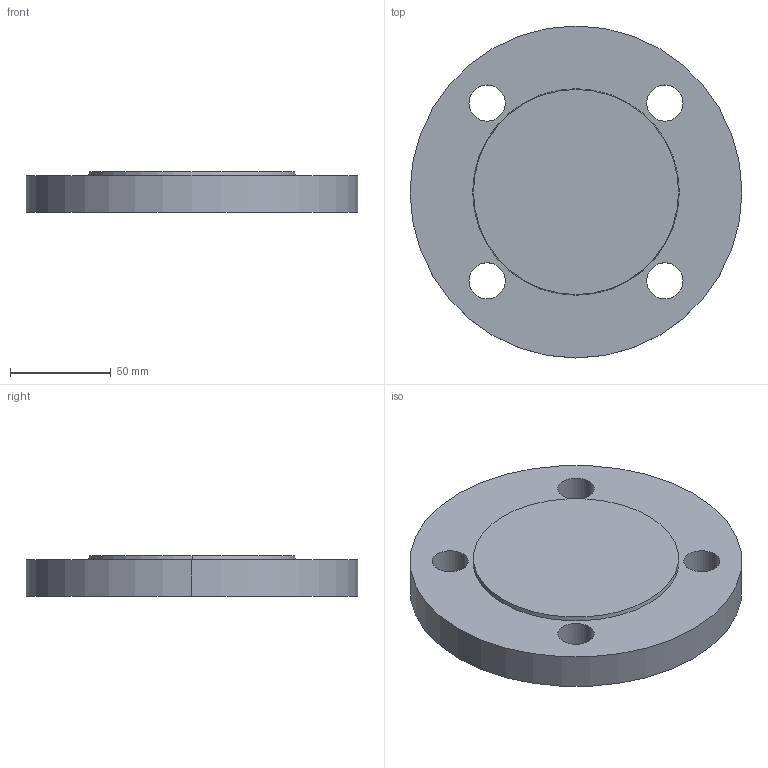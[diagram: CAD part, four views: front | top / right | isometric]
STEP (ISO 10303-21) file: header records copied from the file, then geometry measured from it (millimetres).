
FILE_DESCRIPTION (( 'STEP AP214' ), '1' );
FILE_NAME ('PN40 DN50 Type 05 - Type B Face.STEP', '2018-12-30T04:41:37', ( '' ), ( '' ), 'SwSTEP 2.0', 'SolidWorks 2019', '' );
FILE_SCHEMA (( 'AUTOMOTIVE_DESIGN' ));
Length unit declared in the file: millimetre
Products named in the file (1): PN40 DN50 Type 05 - Type B Face
Bounding box: 165 x 165 x 20 mm (x, y, z)
Volume: 383018.4 mm3; surface area: 54670.8 mm2
Topology: 1 solids, 1 shells, 15 faces, 36 edges, 24 vertices
Faces by surface type: cylinder 10, plane 3, cone 2
Entity records: 504 total; most frequent: DIRECTION 92, CARTESIAN_POINT 76, ORIENTED_EDGE 72, AXIS2_PLACEMENT_3D 40, EDGE_CURVE 36, CIRCLE 24, VERTEX_POINT 24, EDGE_LOOP 24
